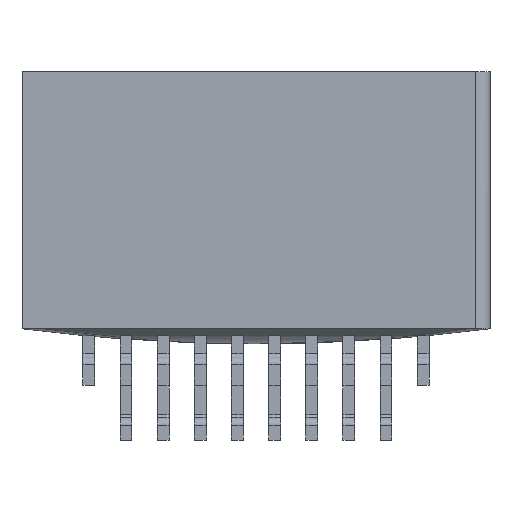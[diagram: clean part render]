
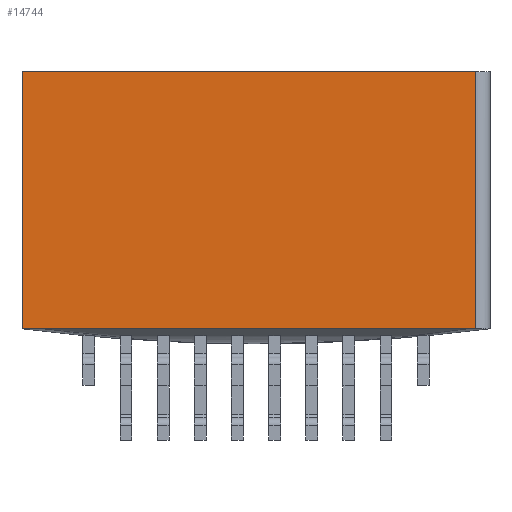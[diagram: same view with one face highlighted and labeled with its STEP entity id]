
A CAD part, front view. The second image highlights one B-rep face of the part: STEP entity #14744.
In plain terms, the highlighted planar face has unit normal (0, -1, 0).
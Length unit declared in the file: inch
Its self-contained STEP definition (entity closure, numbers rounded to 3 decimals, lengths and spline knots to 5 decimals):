
#2 = EDGE_CURVE ( 'NONE', #10499, #6686, #9319, .T. ) ;
#698 = EDGE_CURVE ( 'NONE', #18219, #6686, #2394, .T. ) ;
#2180 = CARTESIAN_POINT ( 'NONE',  ( -0.4575, -0.035, -0.0865 ) ) ;
#2394 = LINE ( 'NONE', #9014, #13600 ) ;
#3613 = CARTESIAN_POINT ( 'NONE',  ( -0.1575, -0.035, -0.0865 ) ) ;
#3650 = EDGE_CURVE ( 'NONE', #10499, #9451, #15118, .T. ) ;
#3689 = DIRECTION ( 'NONE',  ( 0., 0., 1. ) ) ;
#4280 = PLANE ( 'NONE',  #14890 ) ;
#4362 = EDGE_LOOP ( 'NONE', ( #17908, #4654, #16072, #11069 ) ) ;
#4654 = ORIENTED_EDGE ( 'NONE', *, *, #3650, .F. ) ;
#5296 = VECTOR ( 'NONE', #3689, 39.37008 ) ;
#6686 = VERTEX_POINT ( 'NONE', #15275 ) ;
#7409 = DIRECTION ( 'NONE',  ( 0., 0., -1. ) ) ;
#7961 = FACE_OUTER_BOUND ( 'NONE', #4362, .T. ) ;
#9014 = CARTESIAN_POINT ( 'NONE',  ( -0.4575, -0.035, 0.0865 ) ) ;
#9319 = LINE ( 'NONE', #12809, #5296 ) ;
#9451 = VERTEX_POINT ( 'NONE', #3613 ) ;
#9762 = DIRECTION ( 'NONE',  ( -1., 0., 0. ) ) ;
#10499 = VERTEX_POINT ( 'NONE', #12920 ) ;
#11069 = ORIENTED_EDGE ( 'NONE', *, *, #698, .F. ) ;
#11266 = LINE ( 'NONE', #15880, #13902 ) ;
#12809 = CARTESIAN_POINT ( 'NONE',  ( 0.1475, -0.035, 0.0865 ) ) ;
#12920 = CARTESIAN_POINT ( 'NONE',  ( 0.1475, -0.035, -0.0865 ) ) ;
#13600 = VECTOR ( 'NONE', #19449, 39.37008 ) ;
#13902 = VECTOR ( 'NONE', #14369, 39.37008 ) ;
#14369 = DIRECTION ( 'NONE',  ( 0., 0., 1. ) ) ;
#14677 = CARTESIAN_POINT ( 'NONE',  ( -0.1575, -0.035, 0.0865 ) ) ;
#14744 = ADVANCED_FACE ( 'NONE', ( #7961 ), #4280, .T. ) ;
#14890 = AXIS2_PLACEMENT_3D ( 'NONE', #14957, #16493, #7409 ) ;
#14957 = CARTESIAN_POINT ( 'NONE',  ( -0.4575, -0.035, -0.0865 ) ) ;
#15118 = LINE ( 'NONE', #2180, #18701 ) ;
#15120 = EDGE_CURVE ( 'NONE', #9451, #18219, #11266, .T. ) ;
#15275 = CARTESIAN_POINT ( 'NONE',  ( 0.1475, -0.035, 0.0865 ) ) ;
#15880 = CARTESIAN_POINT ( 'NONE',  ( -0.1575, -0.035, -0.0865 ) ) ;
#16072 = ORIENTED_EDGE ( 'NONE', *, *, #2, .T. ) ;
#16493 = DIRECTION ( 'NONE',  ( 0., -1., 0. ) ) ;
#17908 = ORIENTED_EDGE ( 'NONE', *, *, #15120, .F. ) ;
#18219 = VERTEX_POINT ( 'NONE', #14677 ) ;
#18701 = VECTOR ( 'NONE', #9762, 39.37008 ) ;
#19449 = DIRECTION ( 'NONE',  ( 1., 0., 0. ) ) ;
